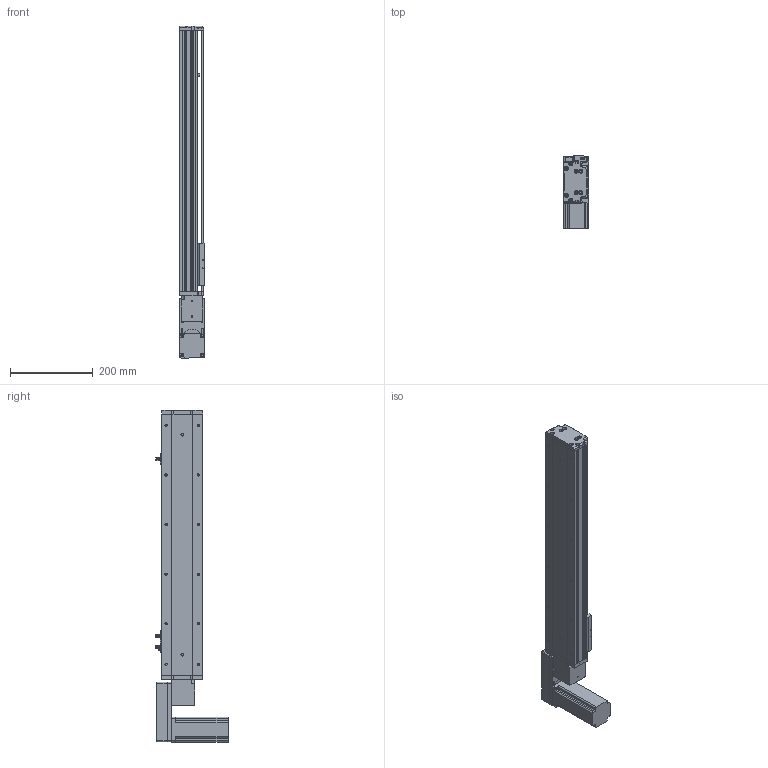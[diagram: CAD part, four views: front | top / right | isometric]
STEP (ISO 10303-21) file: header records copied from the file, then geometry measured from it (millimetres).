
FILE_DESCRIPTION (( 'STEP AP214' ), '1' );
FILE_NAME ('KSD100B-S450-MLB-CM.STEP', '2019-11-08T06:54:28', ( '微软用户' ), ( '微软中国' ), 'SwSTEP 2.0', 'SolidWorks 2014', '' );
FILE_SCHEMA (( 'AUTOMOTIVE_DESIGN' ));
Length unit declared in the file: millimetre
Products named in the file (12): KSD100B-S450-MLB-CM; 100宽底板半封闭同步带450行程; 100遵傷啣肮祭湍; 100宽马达安装板同步带; 100宽同步带安装板半封闭; 100宽马达安装板同步带左; 100宽防尘板450行程-同步带; 覜茼え100遵圉猾敕; U倰嫖萇EEㄜSX672; 台达ECMA－C20604AS伺服电机; 100宽马达安装板连板上下折丝杆同步带; 悵誘欶奻狟殏
Assembly tree (13 placements, depth 2):
  KSD100B-S450-MLB-CM
    100宽底板半封闭同步带450行程
    100遵傷啣肮祭湍
    100宽马达安装板同步带
    100宽同步带安装板半封闭
    100宽马达安装板同步带左
    100宽防尘板450行程-同步带
    覜茼え100遵圉猾敕
    U倰嫖萇EEㄜSX672  x3
    台达ECMA－C20604AS伺服电机
    100宽马达安装板连板上下折丝杆同步带
    悵誘欶奻狟殏
Bounding box: 61 x 174.7 x 803 mm (x, y, z)
Volume: 1927144.6 mm3; surface area: 608458.8 mm2
Topology: 14 solids, 14 shells, 1325 faces, 3704 edges, 2377 vertices
Faces by surface type: cylinder 647, plane 575, cone 103
Entity records: 45845 total; most frequent: CARTESIAN_POINT 8438, DIRECTION 6384, ORIENTED_EDGE 6108, EDGE_CURVE 3054, AXIS2_PLACEMENT_3D 2317, VERTEX_POINT 2001, LINE 1750, VECTOR 1750
